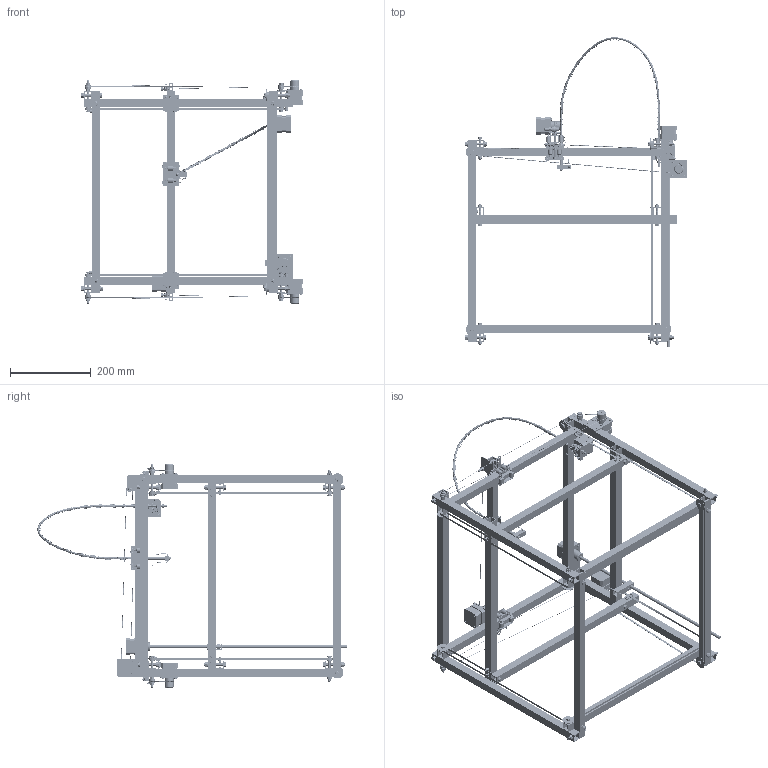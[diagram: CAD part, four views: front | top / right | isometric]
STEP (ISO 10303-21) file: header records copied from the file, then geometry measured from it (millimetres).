
FILE_DESCRIPTION (( 'STEP AP203' ), '1' );
FILE_NAME ('QuadStrap-STEP-AP203.STEP', '2014-04-05T09:38:08', ( '' ), ( '' ), 'SwSTEP 2.0', 'SolidWorks 2014', '' );
FILE_SCHEMA (( 'CONFIG_CONTROL_DESIGN' ));
Length unit declared in the file: millimetre
Products named in the file (79): Strap-QR-032; din_en_24014_m6_M6x65; Strap-QR-030; mutter_din934_m3-6; Strap-QR-026; Strap-QR-034; Strap-QR-306; QuadStrap-STEP-AP203; Strap-QR-014_table-1; din_en_24014_m6_M6x75; Strap-QR-035; Strap-QR-033; washer_din125-2_-_a_d1_6_4_-_300_hv; Strap-QR-030_II; screw_din_912xM3_M3x40; Strap-QR-027; Strap-QR-004; Strap-QR-FahrradKettenglied_gerade; washer_6x30x1; Strap-QR-318-clamp; screw_din_912-m5x0_8-16-8_8; nut_din934_m6-6; Strap-QR-016; nut_934m5-St; bearing_mr105zz_0; Strap-QR-000; Strap-QR-317-clamp; Strap-QR-303; SpiegelnStrap-QR-000; nut_934xm5; Strap-QR-305; Strap-QR-017; Strap-Teil1-QR-Pusher; Strap-QR-FahrradKettenglied; Strap-QR-000_einfach; Strap-QR-316; din_en_24014_m6_M6x50; Strap-QR-036; Strap-QR-011; Strap-QR-309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
Assembly tree (271 placements, depth 5):
  QuadStrap-STEP-AP203
    Strap-QR-014  x12
    Strap-QR-305  x2
      Strap-QR-304
        bearing_696zz_0  x2
      din_en_24014_m6_M6x65
      washer_din125-2_-_a_d1_6_4_-_300_hv
      nut_din934_m6-6
    Strap-QR-307  x3
      Strap-QR-011
      Strap-QR-009
      Strap-QR-013
      screw_din_912xM3
    Strap-QR-303  x2
      Strap-QR-304
        bearing_696zz_0  x2
      din_en_24014_m6_M6x75
      washer_din125-2_-_a_d1_6_4_-_300_hv
      nut_din934_m6-6
      bearing_696zz_0
      washer_6x30x1
    din_en_24014_m6_M6x50  x2
    washer_din125-2_-_a_d1_6_4_-_300_hv  x4
    nut_din934_m6-6  x2
    Strap-QR-300  x10
      din_en_24014_m6_M6x50
      washer_din125-2_-_a_d1_6_4_-_300_hv
      nut_din934_m6-6
    Strap-QR-301  x7
      din_en_24014_m6_M6x60
      washer_din125-2_-_a_d1_6_4_-_300_hv
      nut_din934_m6-6
      bearing_696zz_0
      washer_6x30x1
    Strap-QR-306
      Strap-QR-011
      Strap-QR-009
      Strap-QR-012-Z
      screw_din_912xM3  x4
    Strap-QR-004
    Strap-QR-000
    Strap-QR-002  x2
    Strap-QR-003
    Strap-QR-Pusher
      Strap-QR-011
      Strap-QR-BiC-FlintWheel
      Strap-QR-006  x2
      Strap-QR-026
      Strap-QR-027
      bearing_mr105zz_0
      Strap-QR-FahrradKettenglied
      Strap-QR-028
      screw_din_912xM3_M3x12
      screw_din_912xM3_M3x20
      scheibe_din125-3  x5
      mutter_din934_m3-6  x2
      screw_din_912xM3  x3
      screw_din_912xM3_M3x40  x2
      nut_934m5-St  x2
      Strap-Teil1-QR-Pusher
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Bounding box: 553.2 x 767.89 x 554.4 mm (x, y, z)
Volume: 1515023.6 mm3; surface area: 1658342.7 mm2
Topology: 460 solids, 480 shells, 9069 faces, 20713 edges, 12940 vertices
Faces by surface type: plane 3304, cylinder 2837, cone 2304, torus 556, bspline 64, sphere 4
Entity records: 78695 total; most frequent: CARTESIAN_POINT 26689, DIRECTION 8478, ORIENTED_EDGE 7610, EDGE_CURVE 3805, AXIS2_PLACEMENT_3D 3267, VERTEX_POINT 2445, VECTOR 1944, LINE 1944
